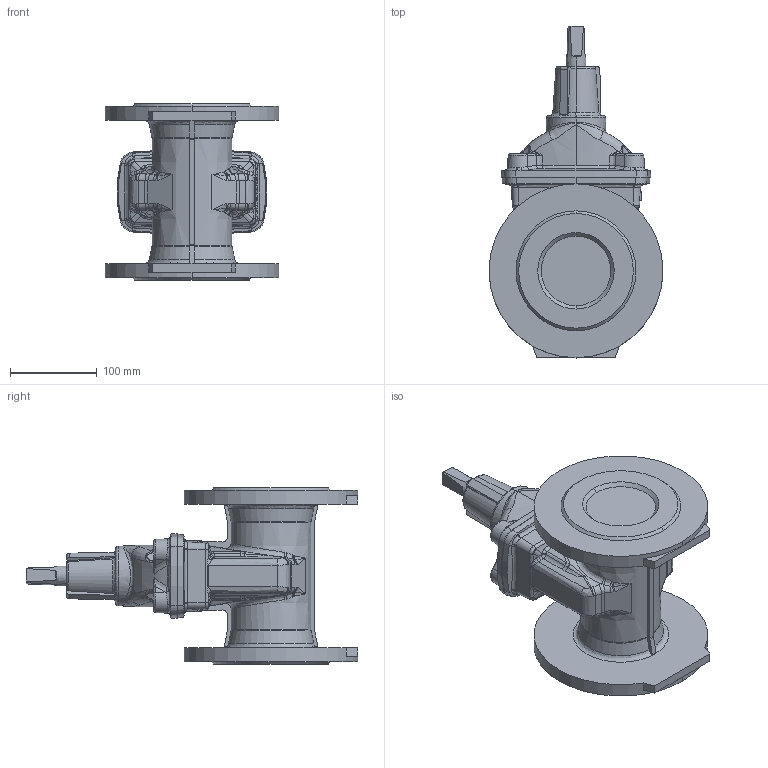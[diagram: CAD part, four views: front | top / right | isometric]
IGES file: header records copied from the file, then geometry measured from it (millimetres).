
Start section: SolidWorks IGES file using analytic representation for surfaces
Global section: file name: C:\Users\qida\Desktop\kerrie.qian\02_20 outline drawing\DN080\O_02_20_DN80_XXXXX9.IGS; native system: SolidWorks 2012; preprocessor: SolidWorks 2012; author: qida; date: 140714.152510; units: millimetre
Bounding box: 200 x 381.85 x 203 mm (x, y, z)
Volume: 3771619 mm3; surface area: 266664.6 mm2
Topology: 1 solids, 1 shells, 658 faces, 1635 edges, 976 vertices
Faces by surface type: bspline 301, revolution 202, plane 155
